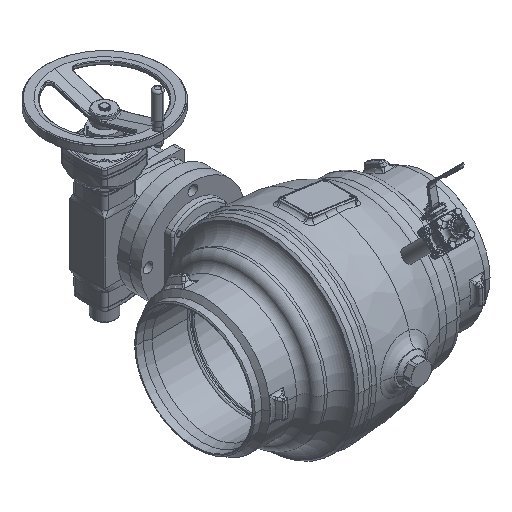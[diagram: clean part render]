
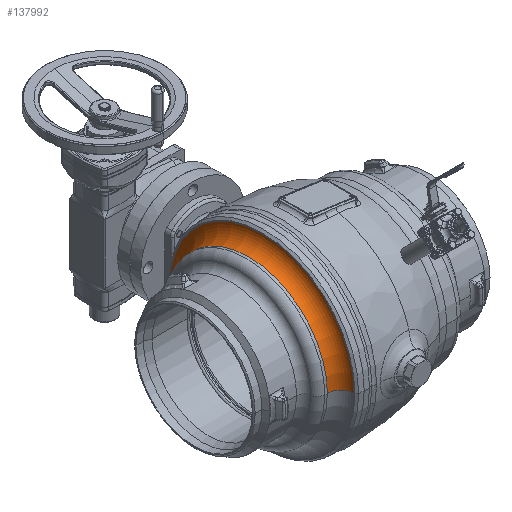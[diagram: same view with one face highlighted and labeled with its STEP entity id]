
A CAD part, isometric view. The second image highlights one B-rep face of the part: STEP entity #137992.
In plain terms, the highlighted toroidal (fillet/blend) face has major radius 248 mm and minor radius 36 mm.
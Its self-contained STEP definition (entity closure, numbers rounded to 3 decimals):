
#31923=CARTESIAN_POINT('',(-135.5,0.,0.));
#31924=DIRECTION('',(1.,0.,0.));
#31925=DIRECTION('',(0.,0.,1.));
#31926=AXIS2_PLACEMENT_3D('',#31923,#31924,#31925);
#31928=CARTESIAN_POINT('',(-171.5,0.,-248.));
#31929=DIRECTION('',(0.,1.,0.));
#31930=DIRECTION('',(0.,0.,1.));
#31931=AXIS2_PLACEMENT_3D('',#31928,#31929,#31930);
#32640=CARTESIAN_POINT('',(-171.5,0.,0.));
#32641=DIRECTION('',(1.,0.,0.));
#32642=DIRECTION('',(0.,0.,1.));
#32643=AXIS2_PLACEMENT_3D('',#32640,#32641,#32642);
#32649=CARTESIAN_POINT('',(-171.5,0.,248.));
#32650=DIRECTION('',(0.,-1.,0.));
#32651=DIRECTION('',(0.,0.,-1.));
#32652=AXIS2_PLACEMENT_3D('',#32649,#32650,#32651);
#66971=CARTESIAN_POINT('',(-171.5,0.,-212.));
#66972=CARTESIAN_POINT('',(-171.5,0.,212.));
#66973=VERTEX_POINT('',#66971);
#66974=VERTEX_POINT('',#66972);
#66975=CARTESIAN_POINT('',(-135.5,0.,-248.));
#66976=CARTESIAN_POINT('',(-135.5,0.,248.));
#66977=VERTEX_POINT('',#66975);
#66978=VERTEX_POINT('',#66976);
#137981=CARTESIAN_POINT('',(-171.5,0.,0.));
#137982=DIRECTION('',(-1.,0.,0.));
#137983=DIRECTION('',(0.,0.,1.));
#137984=AXIS2_PLACEMENT_3D('',#137981,#137982,#137983);
#137985=TOROIDAL_SURFACE('',#137984,248.,36.);
#137986=ORIENTED_EDGE('',*,*,#137975,.F.);
#137987=ORIENTED_EDGE('',*,*,#136633,.T.);
#137988=ORIENTED_EDGE('',*,*,#136618,.T.);
#137989=ORIENTED_EDGE('',*,*,#136630,.F.);
#137990=EDGE_LOOP('',(#137986,#137987,#137988,#137989));
#137991=FACE_OUTER_BOUND('',#137990,.F.);
#137992=ADVANCED_FACE('',(#137991),#137985,.F.);
#31927=CIRCLE('',#31926,248.);
#31932=CIRCLE('',#31931,36.);
#32644=CIRCLE('',#32643,212.);
#32653=CIRCLE('',#32652,36.);
#136618=EDGE_CURVE('',#66978,#66977,#31927,.T.);
#136630=EDGE_CURVE('',#66973,#66977,#31932,.T.);
#136633=EDGE_CURVE('',#66974,#66978,#32653,.T.);
#137975=EDGE_CURVE('',#66974,#66973,#32644,.T.);
